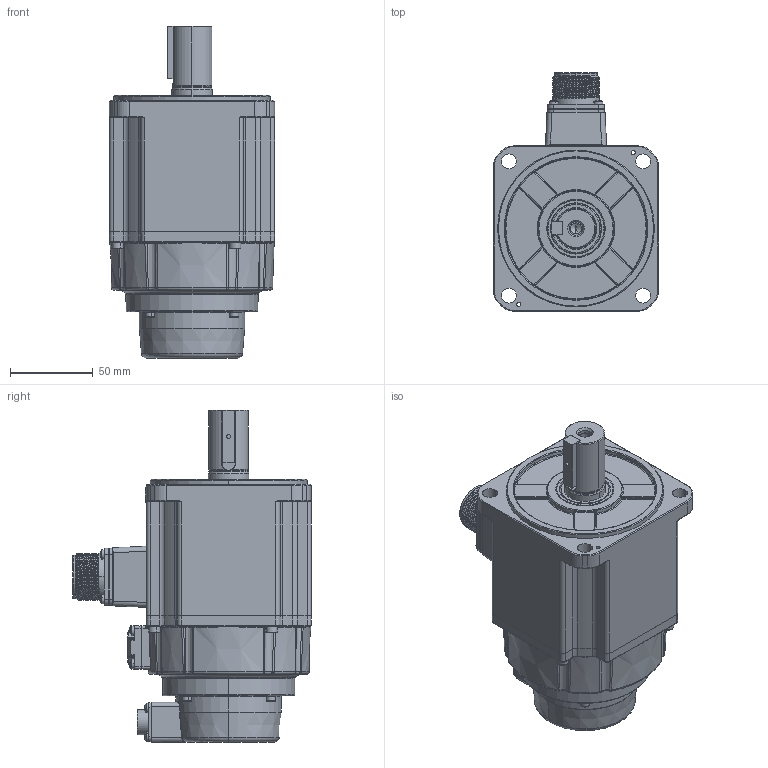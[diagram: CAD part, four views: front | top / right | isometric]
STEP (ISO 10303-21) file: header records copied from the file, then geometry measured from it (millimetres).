
FILE_DESCRIPTION (( 'STEP AP214' ), '1' );
FILE_NAME ('RSK1-S-100-1kw-B.STEP', '2024-08-22T06:48:39', ( '' ), ( '' ), 'SwSTEP 2.0', 'SolidWorks 2020', '' );
FILE_SCHEMA (( 'AUTOMOTIVE_DESIGN' ));
Length unit declared in the file: millimetre
Products named in the file (15): 100-S-1kw儂褲; 4140000005_电机内部编码器线_7x26AWG(0.1m-CMV1-10芯螺纹插座_GACJ3045); 130雄薯瑤脣價釱; RSK1-S-100-1kw-B; 130秶雄ん盄揤裔; 130梓袧綴裔; 100-惕掅綴傷裔; 100-S-24粣噤; 惕掅雄薯瑤脣; 坋趼羞攫芛蹟隊_M3x30; 内六角圆柱头螺钉_M4x16; 蚐猾_TC25x35x5; ﾊｮﾗﾖｲﾛﾅﾌﾍｷﾗﾔｼｷﾂﾝｶ､_M3x8; 内六角圆柱头和平垫圈组合螺钉_M3x16; す瑩_B8x7x32
Assembly tree (30 placements, depth 2):
  RSK1-S-100-1kw-B
    100-S-1kw儂褲
    100-惕掅綴傷裔
    坋趼羞攫芛蹟隊_M3x30  x8
    130雄薯瑤脣價釱
    惕掅雄薯瑤脣
    内六角圆柱头螺钉_M4x16  x4
    130梓袧綴裔
    4140000005_电机内部编码器线_7x26AWG(0.1m-CMV1-10芯螺纹插座_GACJ3045)
    ﾊｮﾗﾖｲﾛﾅﾌﾍｷﾗﾔｼｷﾂﾝｶ､_M3x8  x4
    内六角圆柱头和平垫圈组合螺钉_M3x16  x4
    100-S-24粣噤
    す瑩_B8x7x32
    蚐猾_TC25x35x5
    130秶雄ん盄揤裔
Bounding box: 100 x 144.4 x 201 mm (x, y, z)
Volume: 1205879.1 mm3; surface area: 146634.9 mm2
Topology: 33 solids, 35 shells, 3146 faces, 7763 edges, 4844 vertices
Faces by surface type: plane 1461, cylinder 769, cone 323, torus 269, bspline 248, sphere 76
Entity records: 109047 total; most frequent: CARTESIAN_POINT 28905, ORIENTED_EDGE 13310, DIRECTION 13208, EDGE_CURVE 6655, AXIS2_PLACEMENT_3D 4729, VERTEX_POINT 4170, LINE 3750, VECTOR 3750
